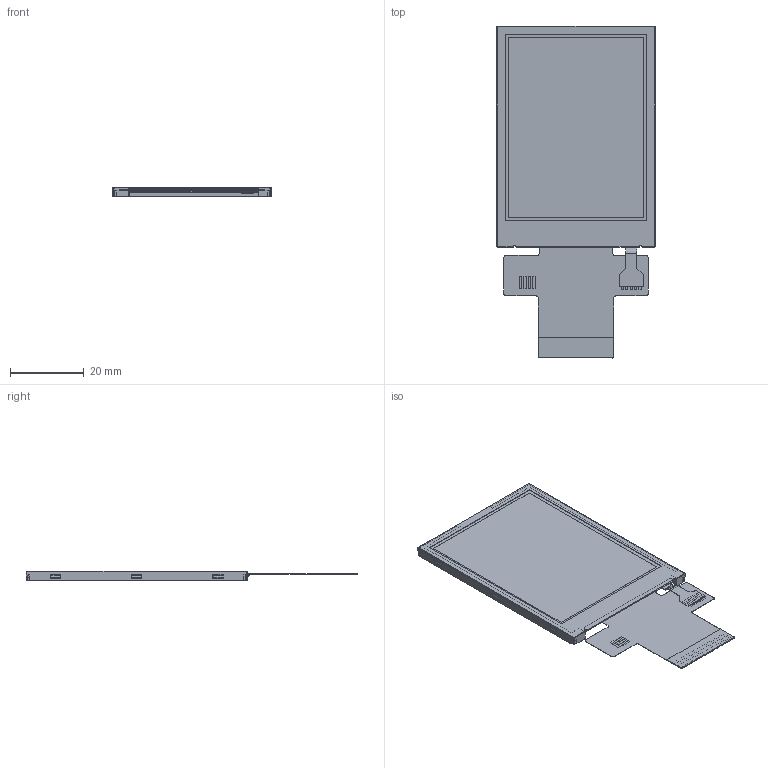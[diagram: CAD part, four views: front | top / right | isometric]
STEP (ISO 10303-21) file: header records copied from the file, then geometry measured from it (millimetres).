
FILE_DESCRIPTION (( 'STEP AP203' ), '1' );
FILE_NAME ('NHD-2.4-240320AF-CTXP_Rev1A.STEP', '2023-06-15T21:53:22', ( '' ), ( '' ), 'SwSTEP 2.0', 'SolidWorks 2019', '' );
FILE_SCHEMA (( 'CONFIG_CONTROL_DESIGN' ));
Length unit declared in the file: millimetre
Products named in the file (1): NHD-2.4-240320AF-CTXP_Rev1A
Bounding box: 42.8 x 89.91 x 2.55 mm (x, y, z)
Surface area: 24357.3 mm2 (no closed solid volume)
Topology: 0 solids, 23 shells, 679 faces, 1933 edges, 1276 vertices
Faces by surface type: plane 620, cylinder 55, bspline 4
Entity records: 21984 total; most frequent: CARTESIAN_POINT 4307, ORIENTED_EDGE 3818, DIRECTION 3301, EDGE_CURVE 1933, LINE 1757, VECTOR 1757, VERTEX_POINT 1276, AXIS2_PLACEMENT_3D 772
